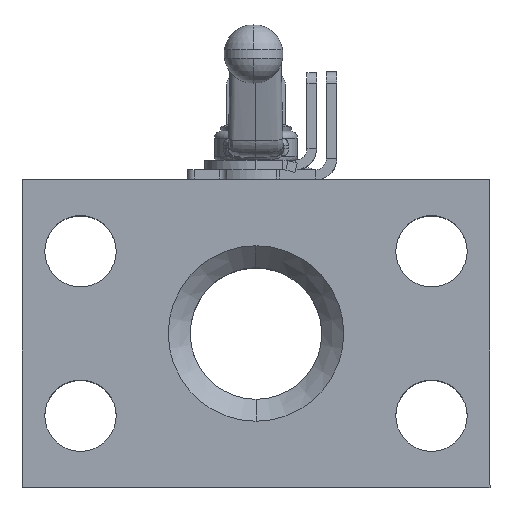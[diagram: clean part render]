
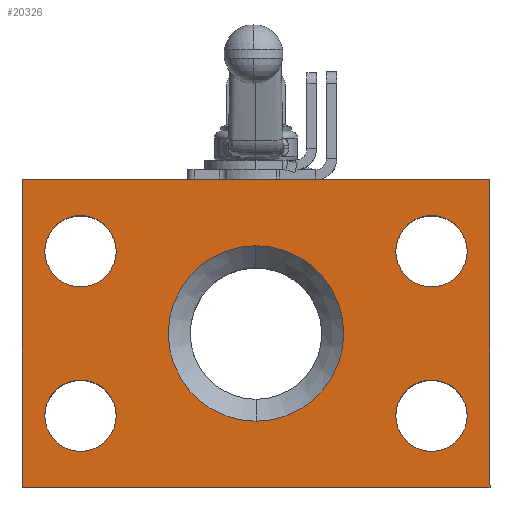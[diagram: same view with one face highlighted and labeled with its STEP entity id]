
A CAD part, top view. The second image highlights one B-rep face of the part: STEP entity #20326.
In plain terms, the highlighted planar face has unit normal (0, 0, 1).
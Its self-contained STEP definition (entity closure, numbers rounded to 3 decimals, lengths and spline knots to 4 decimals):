
#38 = CIRCLE ( 'NONE', #25328, 0.6102 ) ;
#90 = AXIS2_PLACEMENT_3D ( 'NONE', #8267, #31037, #19883 ) ;
#878 = CARTESIAN_POINT ( 'NONE',  ( 29.3445, 35.4806, 56.3521 ) ) ;
#927 = CARTESIAN_POINT ( 'NONE',  ( 29.3445, 36.0908, 56.3521 ) ) ;
#1089 = ORIENTED_EDGE ( 'NONE', *, *, #14538, .F. ) ;
#1736 = DIRECTION ( 'NONE',  ( -1., 0., 0. ) ) ;
#1979 = CARTESIAN_POINT ( 'NONE',  ( 23.3445, 38.9028, 56.3521 ) ) ;
#1988 = AXIS2_PLACEMENT_3D ( 'NONE', #878, #20203, #42995 ) ;
#2010 = VERTEX_POINT ( 'NONE', #13319 ) ;
#2132 = VERTEX_POINT ( 'NONE', #40296 ) ;
#2490 = AXIS2_PLACEMENT_3D ( 'NONE', #12855, #8905, #9387 ) ;
#2925 = CARTESIAN_POINT ( 'NONE',  ( 29.3445, 38.9028, 56.3521 ) ) ;
#3110 = DIRECTION ( 'NONE',  ( 0., 0., -1. ) ) ;
#3588 = CARTESIAN_POINT ( 'NONE',  ( 23.3445, 38.2926, 56.3521 ) ) ;
#3807 = CARTESIAN_POINT ( 'NONE',  ( 22.3445, 34.2616, 56.3521 ) ) ;
#5216 = CARTESIAN_POINT ( 'NONE',  ( 30.3445, 34.2616, 56.3521 ) ) ;
#5995 = CARTESIAN_POINT ( 'NONE',  ( 26.3445, 36.8866, 56.3521 ) ) ;
#6247 = FACE_BOUND ( 'NONE', #19004, .T. ) ;
#6284 = AXIS2_PLACEMENT_3D ( 'NONE', #5995, #16909, #21598 ) ;
#6436 = AXIS2_PLACEMENT_3D ( 'NONE', #24036, #13134, #20564 ) ;
#6498 = FACE_BOUND ( 'NONE', #41391, .T. ) ;
#7229 = CIRCLE ( 'NONE', #90, 0.6102 ) ;
#7474 = CARTESIAN_POINT ( 'NONE',  ( 23.3445, 36.0908, 56.3521 ) ) ;
#7567 = ORIENTED_EDGE ( 'NONE', *, *, #37819, .T. ) ;
#7818 = CARTESIAN_POINT ( 'NONE',  ( 29.3445, 38.2926, 56.3521 ) ) ;
#7888 = CIRCLE ( 'NONE', #42667, 0.6102 ) ;
#7912 = CIRCLE ( 'NONE', #30852, 0.6102 ) ;
#8267 = CARTESIAN_POINT ( 'NONE',  ( 23.3445, 38.2926, 56.3521 ) ) ;
#8905 = DIRECTION ( 'NONE',  ( 0., 0., -1. ) ) ;
#9277 = ORIENTED_EDGE ( 'NONE', *, *, #12378, .T. ) ;
#9297 = ORIENTED_EDGE ( 'NONE', *, *, #23333, .T. ) ;
#9387 = DIRECTION ( 'NONE',  ( 0., 1., 0. ) ) ;
#9586 = CARTESIAN_POINT ( 'NONE',  ( 26.3445, 35.3866, 56.3521 ) ) ;
#9634 = EDGE_CURVE ( 'NONE', #2010, #14497, #45971, .T. ) ;
#10295 = VERTEX_POINT ( 'NONE', #17846 ) ;
#11022 = LINE ( 'NONE', #3807, #20249 ) ;
#11464 = ORIENTED_EDGE ( 'NONE', *, *, #9634, .T. ) ;
#11621 = DIRECTION ( 'NONE',  ( 0., -1., 0. ) ) ;
#11886 = EDGE_CURVE ( 'NONE', #12819, #2132, #7229, .T. ) ;
#12371 = CIRCLE ( 'NONE', #21175, 0.6102 ) ;
#12378 = EDGE_CURVE ( 'NONE', #14497, #2010, #23043, .T. ) ;
#12819 = VERTEX_POINT ( 'NONE', #1979 ) ;
#12855 = CARTESIAN_POINT ( 'NONE',  ( 26.3445, 36.8866, 56.3521 ) ) ;
#13134 = DIRECTION ( 'NONE',  ( 0., 0., -1. ) ) ;
#13319 = CARTESIAN_POINT ( 'NONE',  ( 23.3445, 34.8704, 56.3521 ) ) ;
#14271 = VERTEX_POINT ( 'NONE', #36470 ) ;
#14497 = VERTEX_POINT ( 'NONE', #7474 ) ;
#14538 = EDGE_CURVE ( 'NONE', #29473, #10295, #27995, .T. ) ;
#14760 = DIRECTION ( 'NONE',  ( 0., -1., 0. ) ) ;
#14808 = CARTESIAN_POINT ( 'NONE',  ( 30.3445, 34.2616, 56.3521 ) ) ;
#14986 = DIRECTION ( 'NONE',  ( 0., 1., 0. ) ) ;
#15528 = LINE ( 'NONE', #14808, #47572 ) ;
#15812 = DIRECTION ( 'NONE',  ( 0., 0., -1. ) ) ;
#16744 = EDGE_CURVE ( 'NONE', #21207, #14271, #28323, .T. ) ;
#16909 = DIRECTION ( 'NONE',  ( 0., 0., -1. ) ) ;
#17151 = FACE_OUTER_BOUND ( 'NONE', #46987, .T. ) ;
#17467 = ORIENTED_EDGE ( 'NONE', *, *, #47469, .F. ) ;
#17637 = FACE_BOUND ( 'NONE', #48507, .T. ) ;
#17846 = CARTESIAN_POINT ( 'NONE',  ( 22.3445, 34.2616, 56.3521 ) ) ;
#18175 = EDGE_LOOP ( 'NONE', ( #44678, #27653 ) ) ;
#18474 = ORIENTED_EDGE ( 'NONE', *, *, #31292, .T. ) ;
#18694 = CARTESIAN_POINT ( 'NONE',  ( 23.3445, 35.4806, 56.3521 ) ) ;
#19004 = EDGE_LOOP ( 'NONE', ( #9297, #38697 ) ) ;
#19454 = VERTEX_POINT ( 'NONE', #41925 ) ;
#19866 = VERTEX_POINT ( 'NONE', #927 ) ;
#19883 = DIRECTION ( 'NONE',  ( 0., 1., 0. ) ) ;
#20050 = DIRECTION ( 'NONE',  ( 0., 0., -1. ) ) ;
#20203 = DIRECTION ( 'NONE',  ( 0., 0., -1. ) ) ;
#20249 = VECTOR ( 'NONE', #29097, 39.3701 ) ;
#20326 = ADVANCED_FACE ( 'NONE', ( #17637, #35972, #6498, #40663, #6247, #17151 ), #36462, .F. ) ;
#20564 = DIRECTION ( 'NONE',  ( 0., -1., 0. ) ) ;
#20814 = EDGE_CURVE ( 'NONE', #41360, #41664, #7912, .T. ) ;
#21175 = AXIS2_PLACEMENT_3D ( 'NONE', #7818, #33585, #14760 ) ;
#21207 = VERTEX_POINT ( 'NONE', #22688 ) ;
#21272 = EDGE_CURVE ( 'NONE', #19866, #27766, #38, .T. ) ;
#21538 = VECTOR ( 'NONE', #1736, 39.3701 ) ;
#21565 = ORIENTED_EDGE ( 'NONE', *, *, #20814, .T. ) ;
#21598 = DIRECTION ( 'NONE',  ( 0., 1., 0. ) ) ;
#22688 = CARTESIAN_POINT ( 'NONE',  ( 22.3445, 39.5116, 56.3521 ) ) ;
#23043 = CIRCLE ( 'NONE', #6436, 0.6102 ) ;
#23333 = EDGE_CURVE ( 'NONE', #25969, #19454, #41245, .T. ) ;
#23494 = EDGE_CURVE ( 'NONE', #14271, #29473, #15528, .T. ) ;
#24036 = CARTESIAN_POINT ( 'NONE',  ( 23.3445, 35.4806, 56.3521 ) ) ;
#25159 = CARTESIAN_POINT ( 'NONE',  ( 29.3445, 37.6824, 56.3521 ) ) ;
#25328 = AXIS2_PLACEMENT_3D ( 'NONE', #30067, #48168, #29828 ) ;
#25586 = AXIS2_PLACEMENT_3D ( 'NONE', #27230, #20050, #26745 ) ;
#25969 = VERTEX_POINT ( 'NONE', #9586 ) ;
#26745 = DIRECTION ( 'NONE',  ( 0., 1., 0. ) ) ;
#27230 = CARTESIAN_POINT ( 'NONE',  ( 26.3445, 36.8866, 56.3521 ) ) ;
#27415 = EDGE_LOOP ( 'NONE', ( #9277, #11464 ) ) ;
#27653 = ORIENTED_EDGE ( 'NONE', *, *, #45978, .T. ) ;
#27766 = VERTEX_POINT ( 'NONE', #44958 ) ;
#27995 = LINE ( 'NONE', #5216, #21538 ) ;
#28323 = LINE ( 'NONE', #44181, #42174 ) ;
#29097 = DIRECTION ( 'NONE',  ( 0., 1., 0. ) ) ;
#29473 = VERTEX_POINT ( 'NONE', #48516 ) ;
#29828 = DIRECTION ( 'NONE',  ( 0., 1., 0. ) ) ;
#30067 = CARTESIAN_POINT ( 'NONE',  ( 29.3445, 35.4806, 56.3521 ) ) ;
#30852 = AXIS2_PLACEMENT_3D ( 'NONE', #45540, #15812, #11621 ) ;
#31037 = DIRECTION ( 'NONE',  ( 0., 0., -1. ) ) ;
#31292 = EDGE_CURVE ( 'NONE', #41664, #41360, #12371, .T. ) ;
#32535 = AXIS2_PLACEMENT_3D ( 'NONE', #18694, #37516, #33312 ) ;
#33312 = DIRECTION ( 'NONE',  ( 0., -1., 0. ) ) ;
#33459 = ORIENTED_EDGE ( 'NONE', *, *, #23494, .F. ) ;
#33585 = DIRECTION ( 'NONE',  ( 0., 0., -1. ) ) ;
#33653 = CIRCLE ( 'NONE', #1988, 0.6102 ) ;
#34105 = DIRECTION ( 'NONE',  ( 0., -1., 0. ) ) ;
#34735 = ORIENTED_EDGE ( 'NONE', *, *, #11886, .T. ) ;
#35156 = ORIENTED_EDGE ( 'NONE', *, *, #16744, .F. ) ;
#35972 = FACE_BOUND ( 'NONE', #27415, .T. ) ;
#36462 = PLANE ( 'NONE',  #6284 ) ;
#36470 = CARTESIAN_POINT ( 'NONE',  ( 30.3445, 39.5116, 56.3521 ) ) ;
#37465 = CIRCLE ( 'NONE', #25586, 1.5 ) ;
#37516 = DIRECTION ( 'NONE',  ( 0., 0., -1. ) ) ;
#37819 = EDGE_CURVE ( 'NONE', #2132, #12819, #7888, .T. ) ;
#38697 = ORIENTED_EDGE ( 'NONE', *, *, #42218, .T. ) ;
#40296 = CARTESIAN_POINT ( 'NONE',  ( 23.3445, 37.6824, 56.3521 ) ) ;
#40663 = FACE_BOUND ( 'NONE', #18175, .T. ) ;
#41245 = CIRCLE ( 'NONE', #2490, 1.5 ) ;
#41360 = VERTEX_POINT ( 'NONE', #2925 ) ;
#41391 = EDGE_LOOP ( 'NONE', ( #34735, #7567 ) ) ;
#41664 = VERTEX_POINT ( 'NONE', #25159 ) ;
#41925 = CARTESIAN_POINT ( 'NONE',  ( 26.3445, 38.3866, 56.3521 ) ) ;
#42174 = VECTOR ( 'NONE', #47885, 39.3701 ) ;
#42218 = EDGE_CURVE ( 'NONE', #19454, #25969, #37465, .T. ) ;
#42667 = AXIS2_PLACEMENT_3D ( 'NONE', #3588, #3110, #14986 ) ;
#42995 = DIRECTION ( 'NONE',  ( 0., 1., 0. ) ) ;
#44181 = CARTESIAN_POINT ( 'NONE',  ( 30.3445, 39.5116, 56.3521 ) ) ;
#44678 = ORIENTED_EDGE ( 'NONE', *, *, #21272, .T. ) ;
#44958 = CARTESIAN_POINT ( 'NONE',  ( 29.3445, 34.8704, 56.3521 ) ) ;
#45540 = CARTESIAN_POINT ( 'NONE',  ( 29.3445, 38.2926, 56.3521 ) ) ;
#45971 = CIRCLE ( 'NONE', #32535, 0.6102 ) ;
#45978 = EDGE_CURVE ( 'NONE', #27766, #19866, #33653, .T. ) ;
#46987 = EDGE_LOOP ( 'NONE', ( #35156, #17467, #1089, #33459 ) ) ;
#47469 = EDGE_CURVE ( 'NONE', #10295, #21207, #11022, .T. ) ;
#47572 = VECTOR ( 'NONE', #34105, 39.3701 ) ;
#47885 = DIRECTION ( 'NONE',  ( 1., 0., 0. ) ) ;
#48168 = DIRECTION ( 'NONE',  ( 0., 0., -1. ) ) ;
#48507 = EDGE_LOOP ( 'NONE', ( #21565, #18474 ) ) ;
#48516 = CARTESIAN_POINT ( 'NONE',  ( 30.3445, 34.2616, 56.3521 ) ) ;
